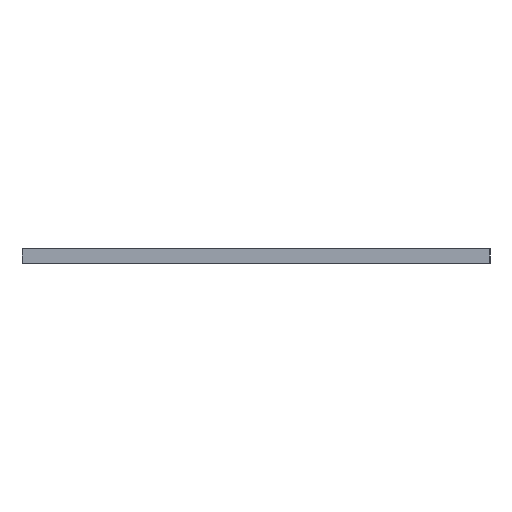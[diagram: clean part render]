
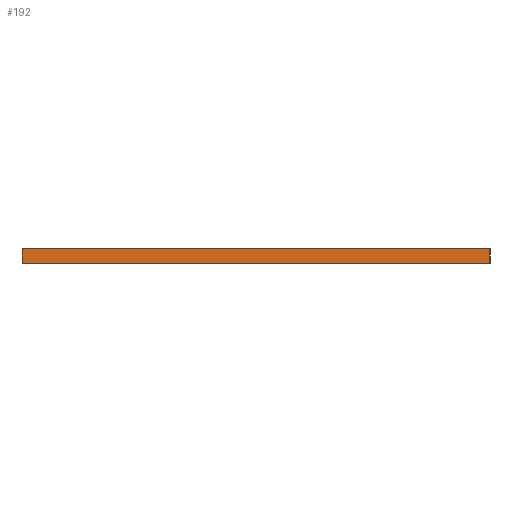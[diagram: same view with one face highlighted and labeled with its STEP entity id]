
A CAD part, left-side view. The second image highlights one B-rep face of the part: STEP entity #192.
In plain terms, the highlighted free-form (B-spline) face has degree [1, 1] with [2, 2] control points.
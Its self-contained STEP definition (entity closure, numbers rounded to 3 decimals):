
#31 = B_SPLINE_SURFACE_WITH_KNOTS('',1,1,(
    (#32,#33)
    ,(#34,#35
    )),.UNSPECIFIED.,.F.,.F.,.F.,(2,2),(2,2),(0.,80.),(-1.44,0.),
  .PIECEWISE_BEZIER_KNOTS.);
#32 = CARTESIAN_POINT('',(80.,0.,1.6));
#33 = CARTESIAN_POINT('',(80.,0.,0.));
#34 = CARTESIAN_POINT('',(0.,0.,1.6));
#35 = CARTESIAN_POINT('',(0.,0.,0.));
#54 = VERTEX_POINT('',#55);
#55 = CARTESIAN_POINT('',(0.,0.,1.6));
#67 = B_SPLINE_SURFACE_WITH_KNOTS('',1,1,(
    (#68,#69)
    ,(#70,#71)),.UNSPECIFIED.,.F.,.F.,.F.,(2,2),(2,2),(0.,80.),(0.,50.),
  .PIECEWISE_BEZIER_KNOTS.);
#68 = CARTESIAN_POINT('',(0.,0.,1.6));
#69 = CARTESIAN_POINT('',(0.,50.,1.6));
#70 = CARTESIAN_POINT('',(80.,0.,1.6));
#71 = CARTESIAN_POINT('',(80.,50.,1.6));
#78 = EDGE_CURVE('',#79,#54,#81,.T.);
#79 = VERTEX_POINT('',#80);
#80 = CARTESIAN_POINT('',(0.,0.,0.));
#81 = SURFACE_CURVE('',#82,(#85,#91),.PCURVE_S1.);
#82 = B_SPLINE_CURVE_WITH_KNOTS('',1,(#83,#84),.UNSPECIFIED.,.F.,.F.,(2,
    2),(0.,1.44),.PIECEWISE_BEZIER_KNOTS.);
#83 = CARTESIAN_POINT('',(0.,0.,0.));
#84 = CARTESIAN_POINT('',(0.,0.,1.6));
#85 = PCURVE('',#31,#86);
#86 = DEFINITIONAL_REPRESENTATION('',(#87),#90);
#87 = B_SPLINE_CURVE_WITH_KNOTS('',1,(#88,#89),.UNSPECIFIED.,.F.,.F.,(2,
    2),(0.,1.44),.PIECEWISE_BEZIER_KNOTS.);
#88 = CARTESIAN_POINT('',(80.,0.));
#89 = CARTESIAN_POINT('',(80.,-1.44));
#90 = ( GEOMETRIC_REPRESENTATION_CONTEXT(2) 
PARAMETRIC_REPRESENTATION_CONTEXT() REPRESENTATION_CONTEXT('2D SPACE',''
  ) );
#91 = PCURVE('',#92,#97);
#92 = B_SPLINE_SURFACE_WITH_KNOTS('',1,1,(
    (#93,#94)
    ,(#95,#96
    )),.UNSPECIFIED.,.F.,.F.,.F.,(2,2),(2,2),(0.,50.),(-1.44,0.),
  .PIECEWISE_BEZIER_KNOTS.);
#93 = CARTESIAN_POINT('',(0.,0.,1.6));
#94 = CARTESIAN_POINT('',(0.,0.,0.));
#95 = CARTESIAN_POINT('',(0.,50.,1.6));
#96 = CARTESIAN_POINT('',(0.,50.,0.));
#97 = DEFINITIONAL_REPRESENTATION('',(#98),#101);
#98 = B_SPLINE_CURVE_WITH_KNOTS('',1,(#99,#100),.UNSPECIFIED.,.F.,.F.,(2
    ,2),(0.,1.44),.PIECEWISE_BEZIER_KNOTS.);
#99 = CARTESIAN_POINT('',(0.,0.));
#100 = CARTESIAN_POINT('',(0.,-1.44));
#101 = ( GEOMETRIC_REPRESENTATION_CONTEXT(2) 
PARAMETRIC_REPRESENTATION_CONTEXT() REPRESENTATION_CONTEXT('2D SPACE',''
  ) );
#115 = B_SPLINE_SURFACE_WITH_KNOTS('',1,1,(
    (#116,#117)
    ,(#118,#119
    )),.UNSPECIFIED.,.F.,.F.,.F.,(2,2),(2,2),(0.,80.),(0.,50.),
  .PIECEWISE_BEZIER_KNOTS.);
#116 = CARTESIAN_POINT('',(0.,0.,0.));
#117 = CARTESIAN_POINT('',(0.,50.,0.));
#118 = CARTESIAN_POINT('',(80.,0.,0.));
#119 = CARTESIAN_POINT('',(80.,50.,0.));
#145 = B_SPLINE_SURFACE_WITH_KNOTS('',1,1,(
    (#146,#147)
    ,(#148,#149
    )),.UNSPECIFIED.,.F.,.F.,.F.,(2,2),(2,2),(0.,80.),(-1.44,0.),
  .PIECEWISE_BEZIER_KNOTS.);
#146 = CARTESIAN_POINT('',(0.,50.,1.6));
#147 = CARTESIAN_POINT('',(0.,50.,0.));
#148 = CARTESIAN_POINT('',(80.,50.,1.6));
#149 = CARTESIAN_POINT('',(80.,50.,0.));
#192 = ADVANCED_FACE('',(#193),#92,.T.);
#193 = FACE_BOUND('',#194,.T.);
#194 = EDGE_LOOP('',(#195,#196,#216,#236));
#195 = ORIENTED_EDGE('',*,*,#78,.T.);
#196 = ORIENTED_EDGE('',*,*,#197,.T.);
#197 = EDGE_CURVE('',#54,#198,#200,.T.);
#198 = VERTEX_POINT('',#199);
#199 = CARTESIAN_POINT('',(0.,50.,1.6));
#200 = SURFACE_CURVE('',#201,(#204,#210),.PCURVE_S1.);
#201 = B_SPLINE_CURVE_WITH_KNOTS('',1,(#202,#203),.UNSPECIFIED.,.F.,.F.,
  (2,2),(0.,50.),.PIECEWISE_BEZIER_KNOTS.);
#202 = CARTESIAN_POINT('',(0.,0.,1.6));
#203 = CARTESIAN_POINT('',(0.,50.,1.6));
#204 = PCURVE('',#92,#205);
#205 = DEFINITIONAL_REPRESENTATION('',(#206),#209);
#206 = B_SPLINE_CURVE_WITH_KNOTS('',1,(#207,#208),.UNSPECIFIED.,.F.,.F.,
  (2,2),(0.,50.),.PIECEWISE_BEZIER_KNOTS.);
#207 = CARTESIAN_POINT('',(0.,-1.44));
#208 = CARTESIAN_POINT('',(50.,-1.44));
#209 = ( GEOMETRIC_REPRESENTATION_CONTEXT(2) 
PARAMETRIC_REPRESENTATION_CONTEXT() REPRESENTATION_CONTEXT('2D SPACE',''
  ) );
#210 = PCURVE('',#67,#211);
#211 = DEFINITIONAL_REPRESENTATION('',(#212),#215);
#212 = B_SPLINE_CURVE_WITH_KNOTS('',1,(#213,#214),.UNSPECIFIED.,.F.,.F.,
  (2,2),(0.,50.),.PIECEWISE_BEZIER_KNOTS.);
#213 = CARTESIAN_POINT('',(0.,0.));
#214 = CARTESIAN_POINT('',(0.,50.));
#215 = ( GEOMETRIC_REPRESENTATION_CONTEXT(2) 
PARAMETRIC_REPRESENTATION_CONTEXT() REPRESENTATION_CONTEXT('2D SPACE',''
  ) );
#216 = ORIENTED_EDGE('',*,*,#217,.F.);
#217 = EDGE_CURVE('',#218,#198,#220,.T.);
#218 = VERTEX_POINT('',#219);
#219 = CARTESIAN_POINT('',(0.,50.,0.));
#220 = SURFACE_CURVE('',#221,(#224,#230),.PCURVE_S1.);
#221 = B_SPLINE_CURVE_WITH_KNOTS('',1,(#222,#223),.UNSPECIFIED.,.F.,.F.,
  (2,2),(0.,1.44),.PIECEWISE_BEZIER_KNOTS.);
#222 = CARTESIAN_POINT('',(0.,50.,0.));
#223 = CARTESIAN_POINT('',(0.,50.,1.6));
#224 = PCURVE('',#92,#225);
#225 = DEFINITIONAL_REPRESENTATION('',(#226),#229);
#226 = B_SPLINE_CURVE_WITH_KNOTS('',1,(#227,#228),.UNSPECIFIED.,.F.,.F.,
  (2,2),(0.,1.44),.PIECEWISE_BEZIER_KNOTS.);
#227 = CARTESIAN_POINT('',(50.,0.));
#228 = CARTESIAN_POINT('',(50.,-1.44));
#229 = ( GEOMETRIC_REPRESENTATION_CONTEXT(2) 
PARAMETRIC_REPRESENTATION_CONTEXT() REPRESENTATION_CONTEXT('2D SPACE',''
  ) );
#230 = PCURVE('',#145,#231);
#231 = DEFINITIONAL_REPRESENTATION('',(#232),#235);
#232 = B_SPLINE_CURVE_WITH_KNOTS('',1,(#233,#234),.UNSPECIFIED.,.F.,.F.,
  (2,2),(0.,1.44),.PIECEWISE_BEZIER_KNOTS.);
#233 = CARTESIAN_POINT('',(0.,0.));
#234 = CARTESIAN_POINT('',(0.,-1.44));
#235 = ( GEOMETRIC_REPRESENTATION_CONTEXT(2) 
PARAMETRIC_REPRESENTATION_CONTEXT() REPRESENTATION_CONTEXT('2D SPACE',''
  ) );
#236 = ORIENTED_EDGE('',*,*,#237,.F.);
#237 = EDGE_CURVE('',#79,#218,#238,.T.);
#238 = SURFACE_CURVE('',#239,(#242,#248),.PCURVE_S1.);
#239 = B_SPLINE_CURVE_WITH_KNOTS('',1,(#240,#241),.UNSPECIFIED.,.F.,.F.,
  (2,2),(0.,50.),.PIECEWISE_BEZIER_KNOTS.);
#240 = CARTESIAN_POINT('',(0.,0.,0.));
#241 = CARTESIAN_POINT('',(0.,50.,0.));
#242 = PCURVE('',#92,#243);
#243 = DEFINITIONAL_REPRESENTATION('',(#244),#247);
#244 = B_SPLINE_CURVE_WITH_KNOTS('',1,(#245,#246),.UNSPECIFIED.,.F.,.F.,
  (2,2),(0.,50.),.PIECEWISE_BEZIER_KNOTS.);
#245 = CARTESIAN_POINT('',(0.,0.));
#246 = CARTESIAN_POINT('',(50.,0.));
#247 = ( GEOMETRIC_REPRESENTATION_CONTEXT(2) 
PARAMETRIC_REPRESENTATION_CONTEXT() REPRESENTATION_CONTEXT('2D SPACE',''
  ) );
#248 = PCURVE('',#115,#249);
#249 = DEFINITIONAL_REPRESENTATION('',(#250),#253);
#250 = B_SPLINE_CURVE_WITH_KNOTS('',1,(#251,#252),.UNSPECIFIED.,.F.,.F.,
  (2,2),(0.,50.),.PIECEWISE_BEZIER_KNOTS.);
#251 = CARTESIAN_POINT('',(0.,0.));
#252 = CARTESIAN_POINT('',(0.,50.));
#253 = ( GEOMETRIC_REPRESENTATION_CONTEXT(2) 
PARAMETRIC_REPRESENTATION_CONTEXT() REPRESENTATION_CONTEXT('2D SPACE',''
  ) );
